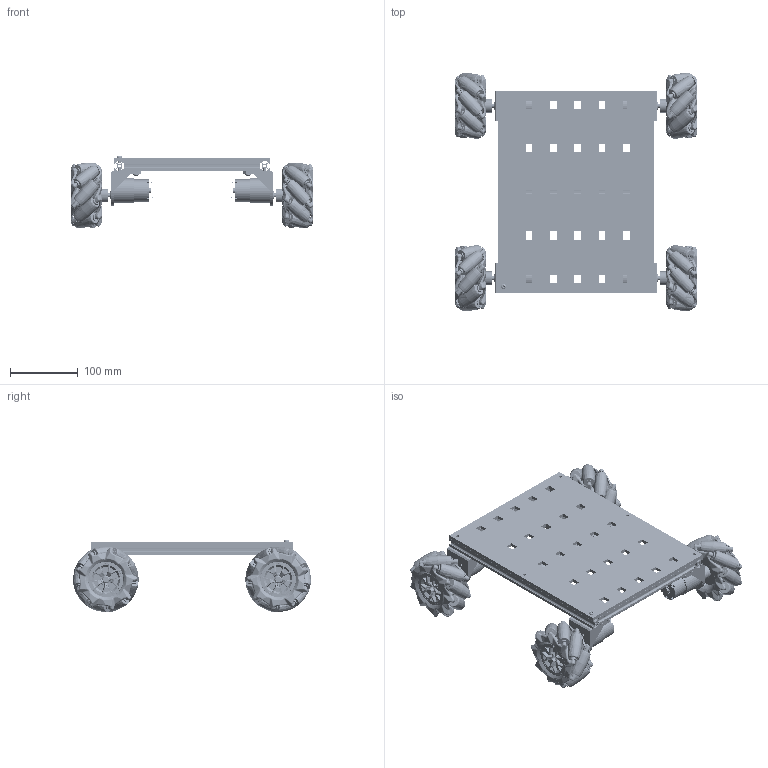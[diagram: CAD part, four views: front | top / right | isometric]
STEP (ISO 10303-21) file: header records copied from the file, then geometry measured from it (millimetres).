
FILE_DESCRIPTION(/* description */ (''),/* implementation_level */ '2;1');
FILE_NAME(/* name */ 'drone_tslot1515.stp',/* time_stamp */ '2025-08-16T13:39:24+02:00',/* author */ ('R5800u'),/* organization */ (''),/* preprocessor_version */ 'ST-DEVELOPER v20',/* originating_system */ 'Autodesk Inventor 2025',/* authorisation */ '');
FILE_SCHEMA (('AUTOMOTIVE_DESIGN { 1 0 10303 214 3 1 1 }'));
Products named in the file (25): frame_tslot1515; tslot-1515-200mm; tslot-1515-300mm; tslot-1515-300mm_MIR; tslot-1515-200mm_MIR; angolare_1515; MM-JGB37; JGB37-520; Mecanum wheel - left; albero_ottonre_12x6; pianoA; MM-JGB37 v4_MIR; JGB37-520_MIR; AS 1427 - M4 x 10; Mecanum wheel - left_MIR; albero_ottonre_12x6_MIR; MM-JGB37 v4_MIR1; JGB37-520_MIR1; Mecanum wheel - left_MIR1; albero_ottonre_12x6_MIR1; MM-JGB37 v4_MIR_MIR; JGB37-520_MIR_MIR; Mecanum wheel - left_MIR_MIR; albero_ottonre_12x6_MIR_MIR; AS 1427 - M4 x 8
Assembly tree (35 placements, depth 2):
  frame_tslot1515
    tslot-1515-200mm
    tslot-1515-300mm
    tslot-1515-200mm_MIR  x2
    tslot-1515-300mm_MIR
    angolare_1515  x6
    MM-JGB37
    JGB37-520
    AS 1427 - M4 x 10  x5
    Mecanum wheel - left
    albero_ottonre_12x6
    pianoA
    MM-JGB37 v4_MIR
    JGB37-520_MIR
    AS 1427 - M4 x 8  x2
    Mecanum wheel - left_MIR
    albero_ottonre_12x6_MIR
    MM-JGB37 v4_MIR1
    JGB37-520_MIR1
    Mecanum wheel - left_MIR1
    albero_ottonre_12x6_MIR1
    MM-JGB37 v4_MIR_MIR
    JGB37-520_MIR_MIR
    Mecanum wheel - left_MIR_MIR
    albero_ottonre_12x6_MIR_MIR
Bounding box: 359.3 x 351.43 x 107.32 mm (x, y, z)
Volume: 1147904.5 mm3; surface area: 712065.7 mm2
Topology: 119 solids, 119 shells, 11749 faces, 29610 edges, 17386 vertices
Faces by surface type: plane 4238, bspline 3028, cylinder 2873, sphere 683, torus 611, cone 316
Full cylindrical faces by diameter (mm): 1.35 x20, 1.6 x12, 2 x12, 2.5 x24, 2.6 x12, 3.2 x8, 3.4 x8, 3.5 x24, 3.571 x7, 3.75 x20, 4 x19, 4.2 x17, 4.3 x24, 4.5 x10, 5.15 x20, 5.25 x72, 5.75 x144, 6 x16, 7.5 x44, 7.9 x8, 9 x72, 10.55 x72, 12 x4, 12.5 x4, 20 x12, 32 x8, 33 x4, 34 x4, 35.4 x4, 37 x4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
Entity records: 603850 total; most frequent: CARTESIAN_POINT 347568, ORIENTED_EDGE 54540, DIRECTION 48822, EDGE_CURVE 27270, AXIS2_PLACEMENT_3D 19922, VERTEX_POINT 16488, EDGE_LOOP 12088, FACE_OUTER_BOUND 11218
